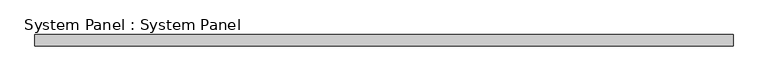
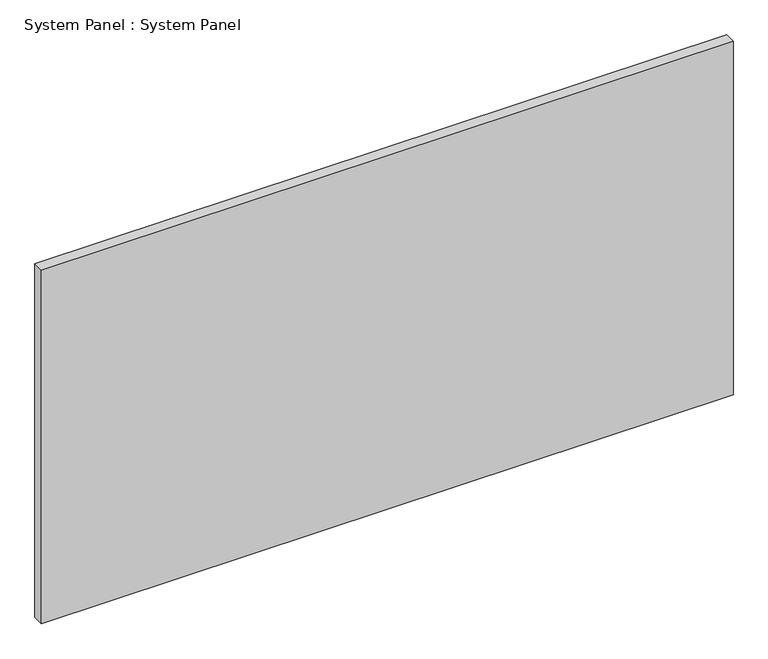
"""IFC4 building model written with IfcOpenShell, lengths in millimetres: plate geometry, System Panel : System Panel."""

import ifcopenshell
import ifcopenshell.guid

model = None  # the IFC model being written
_history = None  # IfcOwnerHistory: only IFC2X3 demands one
_inside = {}  # id of a spatial element -> (the spatial element, [elements in it])
_under = {}  # id of a project, library or spatial element -> (it, [spatial elements below it])
_declared = {}  # id of a project -> (the project, [libraries it declares])
_typed = {}  # id of a type object -> (the type object, [elements of that type])
_made_of = {}  # id of a material, layer set ... -> (it, [elements and type objects made of it])


def new_model(schema):
    """Start an empty IFC model of exactly this schema.

    Asked for "IFC4X3", IfcOpenShell would pick the latest addendum, in which some entities
    have other attributes; the version numbers below select the first issue.
    IFC2X3 requires an IfcOwnerHistory on every rooted entity: one is made here for all.
    """
    global model, _history
    if schema == "IFC4X3":
        model = ifcopenshell.file(schema_version=(4, 3, 0, 0))
    else:
        model = ifcopenshell.file(schema=schema)
    _inside.clear()
    _under.clear()
    _declared.clear()
    _typed.clear()
    _made_of.clear()
    _history = None
    if model.schema == "IFC2X3":
        org = make("IfcOrganization", Name="unknown")
        user = make(
            "IfcPersonAndOrganization",
            ThePerson=make("IfcPerson", FamilyName="unknown"),
            TheOrganization=org,
        )
        app = make(
            "IfcApplication",
            ApplicationDeveloper=org,
            Version="unknown",
            ApplicationFullName="unknown",
            ApplicationIdentifier="unknown",
        )
        _history = make(
            "IfcOwnerHistory",
            OwningUser=user,
            OwningApplication=app,
            ChangeAction="ADDED",
            CreationDate=0,
        )
    return model


def make(cls, **values):
    """One entity of the class cls with the attributes given. An attribute that is None is left unset."""
    return model.create_entity(
        cls, **{name: value for name, value in values.items() if value is not None}
    )


def rooted(cls, **values):
    """An entity with a GlobalId (a new one), such as an element, a storey or a relation."""
    return make(cls, GlobalId=ifcopenshell.guid.new(), OwnerHistory=_history, **values)


def si_unit(unit_type, name, prefix=None):
    """IfcSIUnit, for example si_unit("LENGTHUNIT", "METRE", prefix="MILLI")."""
    return make("IfcSIUnit", UnitType=unit_type, Prefix=prefix, Name=name)


def assignment(units):
    """IfcUnitAssignment: the units of a project."""
    return None if units is None else make("IfcUnitAssignment", Units=units)


def point(xyz):
    """IfcCartesianPoint."""
    return None if xyz is None else make("IfcCartesianPoint", Coordinates=xyz)


def direction(xyz):
    """IfcDirection."""
    return None if xyz is None else make("IfcDirection", DirectionRatios=xyz)


def frame(location, z_axis=None, x_axis=None):
    """IfcAxis2Placement3D, a coordinate frame: its origin and axes. An axis left out is left unset."""
    return make(
        "IfcAxis2Placement3D",
        Location=point(location),
        Axis=direction(z_axis),
        RefDirection=direction(x_axis),
    )


def origin():
    """The frame at (0, 0, 0) with its axes left unset."""
    return frame((0.0, 0.0, 0.0))


def origin_with_axes():
    """The frame at (0, 0, 0) with the z axis (0, 0, 1) and the x axis (1, 0, 0) written out."""
    return frame((0.0, 0.0, 0.0), z_axis=(0.0, 0.0, 1.0), x_axis=(1.0, 0.0, 0.0))


def place(relative_to, where):
    """IfcLocalPlacement: puts the frame where relative to a parent placement (None: the world)."""
    return make(
        "IfcLocalPlacement", PlacementRelTo=relative_to, RelativePlacement=where
    )


def context(
    kind, dimensions, precision=None, world=None, true_north=None, identifier=None
):
    """IfcGeometricRepresentationContext, for example the 3D "Model" context."""
    return make(
        "IfcGeometricRepresentationContext",
        ContextIdentifier=identifier,
        ContextType=kind,
        CoordinateSpaceDimension=dimensions,
        Precision=precision,
        WorldCoordinateSystem=world,
        TrueNorth=true_north,
    )


def project(units=None, contexts=None):
    """IfcProject with its units and contexts."""
    return rooted(
        "IfcProject",
        Name="project",
        RepresentationContexts=contexts,
        UnitsInContext=assignment(units),
    )


def spatial(cls, under=None, at=None, **own):
    """A site, building, storey or space (cls), placed at a placement, below another one or the project."""
    s = rooted(cls, ObjectPlacement=at, **own)
    if under is not None:
        _under.setdefault(under.id(), (under, []))[1].append(s)
    return s


def polyline(points):
    """IfcPolyline through the points."""
    return make("IfcPolyline", Points=[point(p) for p in points])


def outline(outer, holes=None, kind="AREA"):
    """IfcArbitraryClosedProfileDef: a profile drawn as a closed curve; with holes, ...WithVoids."""
    if holes is None:
        return make("IfcArbitraryClosedProfileDef", ProfileType=kind, OuterCurve=outer)
    return make(
        "IfcArbitraryProfileDefWithVoids",
        ProfileType=kind,
        OuterCurve=outer,
        InnerCurves=holes,
    )


def extrude(swept, where, along, depth):
    """IfcExtrudedAreaSolid: the profile swept, set in the frame where, extruded along a direction by depth."""
    return make(
        "IfcExtrudedAreaSolid",
        SweptArea=swept,
        Position=where,
        ExtrudedDirection=direction(along),
        Depth=depth,
    )


def shape(context_of_items, identifier, shape_type, items):
    """IfcShapeRepresentation: the items that make up one representation, for example the "Body"."""
    return make(
        "IfcShapeRepresentation",
        ContextOfItems=context_of_items,
        RepresentationIdentifier=identifier,
        RepresentationType=shape_type,
        Items=items,
    )


def source(mapping_origin, context_of_items, identifier, shape_type, items):
    """IfcRepresentationMap: a shape defined once, which mapped items show again and again."""
    return make(
        "IfcRepresentationMap",
        MappingOrigin=mapping_origin,
        MappedRepresentation=shape(context_of_items, identifier, shape_type, items),
    )


def transform(
    local_origin,
    x_axis=None,
    y_axis=None,
    z_axis=None,
    scale=None,
    scale2=None,
    scale3=None,
    uniform=True,
):
    """IfcCartesianTransformationOperator3D, or its non-uniform kind. x_axis, y_axis, z_axis: its Axis1, 2, 3."""
    if uniform:
        return make(
            "IfcCartesianTransformationOperator3D",
            Axis1=direction(x_axis),
            Axis2=direction(y_axis),
            LocalOrigin=point(local_origin),
            Scale=scale,
            Axis3=direction(z_axis),
        )
    return make(
        "IfcCartesianTransformationOperator3DnonUniform",
        Axis1=direction(x_axis),
        Axis2=direction(y_axis),
        LocalOrigin=point(local_origin),
        Scale=scale,
        Axis3=direction(z_axis),
        Scale2=scale2,
        Scale3=scale3,
    )


def mapped(mapping_source, mapping_target):
    """IfcMappedItem: shows the shape of a source again, moved by a transform."""
    return make(
        "IfcMappedItem", MappingSource=mapping_source, MappingTarget=mapping_target
    )


def made_of(thing, what):
    """Note that an element or type object is made of a material, layer set ...; save() writes the relation."""
    if what is not None:
        _made_of.setdefault(what.id(), (what, []))[1].append(thing)
    return thing


def element(
    cls,
    number,
    at=None,
    inside=None,
    cuts=None,
    type_object=None,
    material=None,
    context=None,
    identifier="Body",
    shape_type=None,
    held_by="IfcProductDefinitionShape",
    body=None,
    shapes=None,
    **own,
):
    """One element of the class cls, such as IfcWall. Its Tag is "e" and its number.

    at: its placement. inside: the storey or other place that contains it. cuts: it is an
    opening in that element (IfcRelVoidsElement). A single representation is given by context,
    identifier, shape_type and body (its items); several are given by shapes. held_by: the class
    of the entity that holds the representations. save() writes the other relations.
    """
    e = rooted(cls, Tag="e%d" % number, ObjectPlacement=at, **own)
    if body is not None:
        shapes = [shape(context, identifier, shape_type, body)]
    if shapes is not None:
        e.Representation = make(held_by, Representations=shapes)
    if inside is not None:
        _inside.setdefault(inside.id(), (inside, []))[1].append(e)
    if cuts is not None:
        rooted(
            "IfcRelVoidsElement", RelatingBuildingElement=cuts, RelatedOpeningElement=e
        )
    if type_object is not None:
        _typed.setdefault(type_object.id(), (type_object, []))[1].append(e)
    return made_of(e, material)


def aggregate(whole, parts):
    """IfcRelAggregates: a whole, such as a stair, and the parts it consists of."""
    return rooted("IfcRelAggregates", RelatingObject=whole, RelatedObjects=parts)


def save(model, path):
    """Write the relations noted so far, then the file.

    IfcRelAggregates (storeys below a building ...), IfcRelContainedInSpatialStructure (elements
    in a storey), IfcRelDefinesByType, IfcRelAssociatesMaterial and IfcRelDeclares: one each for
    every whole, place, type object, material and project.
    """
    for whole, parts in _under.values():
        aggregate(whole, parts)
    for where, things in _inside.values():
        rooted(
            "IfcRelContainedInSpatialStructure",
            RelatedElements=things,
            RelatingStructure=where,
        )
    for kind, things in _typed.values():
        rooted("IfcRelDefinesByType", RelatedObjects=things, RelatingType=kind)
    for what, things in _made_of.values():
        rooted("IfcRelAssociatesMaterial", RelatedObjects=things, RelatingMaterial=what)
    for by, libraries in _declared.values():
        rooted("IfcRelDeclares", RelatingContext=by, RelatedDefinitions=libraries)
    model.write(path)


def system_panel_system_panel_7275595e(model_context):
    return source(origin(), model_context, "Body", "SweptSolid", [
        extrude(outline(polyline([(793.75, 19.05), (-793.75, 19.05), (-793.75, 44.45), (793.75, 44.45), (793.75, 19.05)])), origin_with_axes(), (0.0, 0.0, 1.0), 857.25),
    ])


if __name__ == "__main__":
    model = new_model("IFC4")
    model_context = context("Model", 3, world=origin())
    ifc_project = project(units=[si_unit("LENGTHUNIT", "METRE", prefix="MILLI")], contexts=[model_context])
    site = spatial("IfcSite", under=ifc_project)
    building = spatial("IfcBuilding", under=site)
    placement = place(None, origin())
    system_panel_system_panel_shape = system_panel_system_panel_7275595e(model_context)
    element("IfcPlate", 1, ObjectType="System Panel : System Panel", at=placement, inside=building, context=model_context, shape_type="MappedRepresentation", body=[
        mapped(system_panel_system_panel_shape, transform((0.0, 0.0, 0.0), x_axis=(1.0, 0.0, 0.0), y_axis=(0.0, 1.0, 0.0), z_axis=(0.0, 0.0, 1.0))),
    ])
    save(model, "model.ifc")
